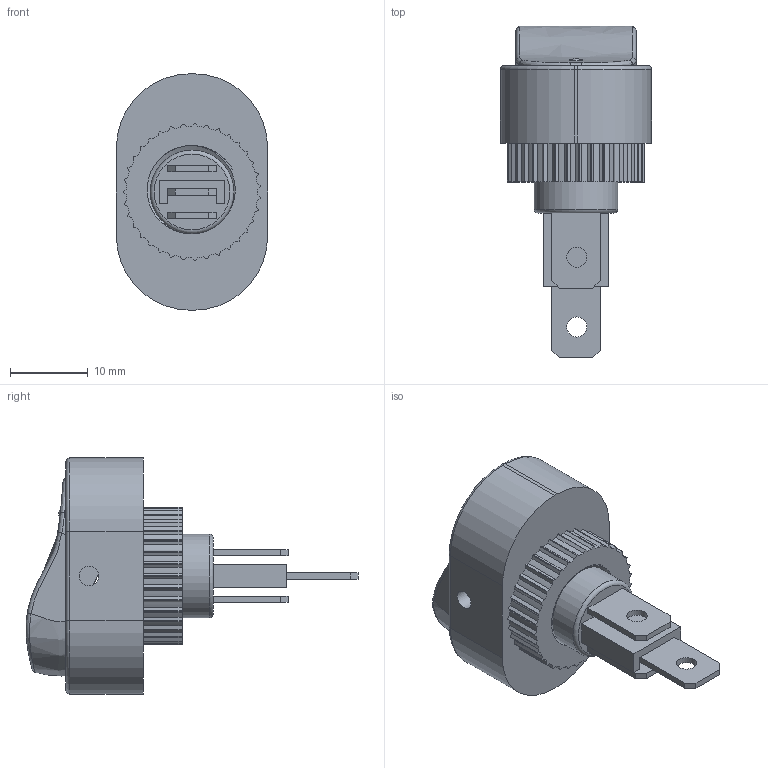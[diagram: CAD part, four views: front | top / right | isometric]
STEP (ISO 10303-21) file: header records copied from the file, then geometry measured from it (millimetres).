
FILE_DESCRIPTION(/* description */ (''),/* implementation_level */ '2;1');
FILE_NAME(/* name */ 'C:\Users\Hani\Desktop\work\RD2-1A-DC-1-UL\RD2-1A-DC-1-UL.stp',/* time_stamp */ '2020-10-14T17:54:07-07:00',/* author */ ('Hani'),/* organization */ (''),/* preprocessor_version */ 'ST-DEVELOPER v17',/* originating_system */ 'Autodesk Inventor 2019',/* authorisation */ '');
FILE_SCHEMA (('AUTOMOTIVE_DESIGN { 1 0 10303 214 3 1 1 }'));
Products named in the file (7): RD2-1A-DC-1-UL; RD1-1A-DC-1-UL; terminal2; terminal2_MIR; terminal; NUT; button3
Assembly tree (6 placements, depth 2):
  RD2-1A-DC-1-UL
    RD1-1A-DC-1-UL
    terminal2
    terminal2_MIR
    terminal
    NUT
    button3
Bounding box: 19.5 x 42.84 x 30.5 mm (x, y, z)
Volume: 7022.2 mm3; surface area: 5373.3 mm2
Topology: 6 solids, 6 shells, 262 faces, 714 edges, 468 vertices
Faces by surface type: plane 122, cylinder 106, bspline 22, torus 10, cone 2
Full cylindrical faces by diameter (mm): 1.6 x1, 1.75 x1, 2.5 x2, 2.6 x3, 10.701 x4, 10.795 x1, 12 x4
Entity records: 11736 total; most frequent: CARTESIAN_POINT 4834, ORIENTED_EDGE 1428, DIRECTION 1365, EDGE_CURVE 714, AXIS2_PLACEMENT_3D 472, VERTEX_POINT 468, LINE 421, VECTOR 421
